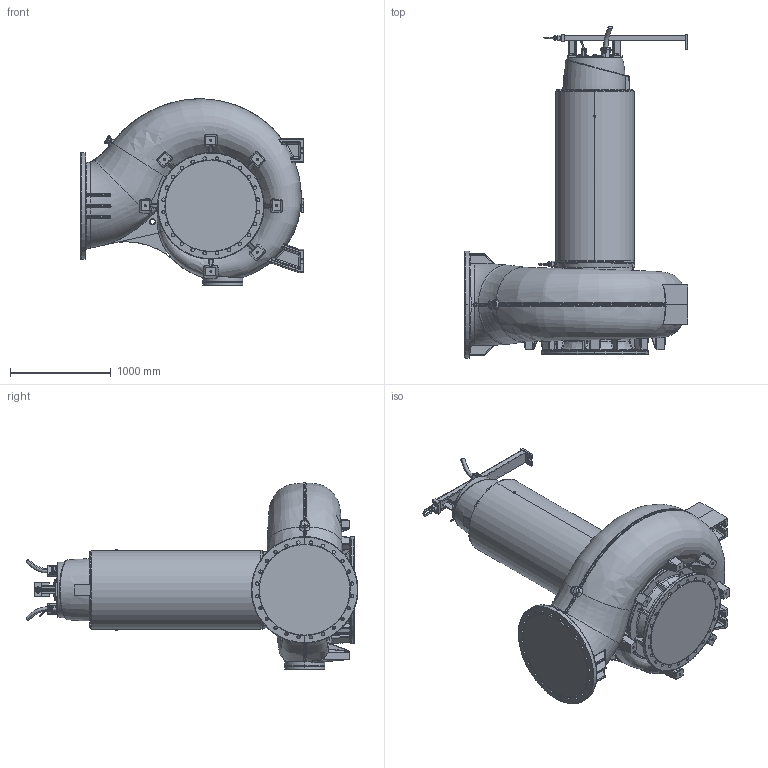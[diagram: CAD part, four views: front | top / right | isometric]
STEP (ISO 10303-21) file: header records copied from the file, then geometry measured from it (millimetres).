
FILE_DESCRIPTION (( 'STEP AP214' ), '1' );
FILE_NAME ('PE7_XFP800X-MX5_DRY HA_E.STEP', '2020-11-24T05:21:20', ( '' ), ( '' ), 'SwSTEP 2.0', 'SolidWorks 2017', '' );
FILE_SCHEMA (( 'AUTOMOTIVE_DESIGN' ));
Length unit declared in the file: inch
Products named in the file (1): PE7_XFP800X-MX5_DRY HA_E
Bounding box: 2225 x 3301.12 x 1851.61 mm (x, y, z)
Volume: 2770677013 mm3; surface area: 20282144.5 mm2
Topology: 18 solids, 39 shells, 4066 faces, 10096 edges, 6171 vertices
Faces by surface type: bspline 1528, plane 1257, cylinder 962, cone 311, torus 8
Entity records: 308476 total; most frequent: CARTESIAN_POINT 223122, ORIENTED_EDGE 20044, DIRECTION 14378, EDGE_CURVE 10022, VERTEX_POINT 6171, AXIS2_PLACEMENT_3D 5342, EDGE_LOOP 4413, FACE_OUTER_BOUND 4066
